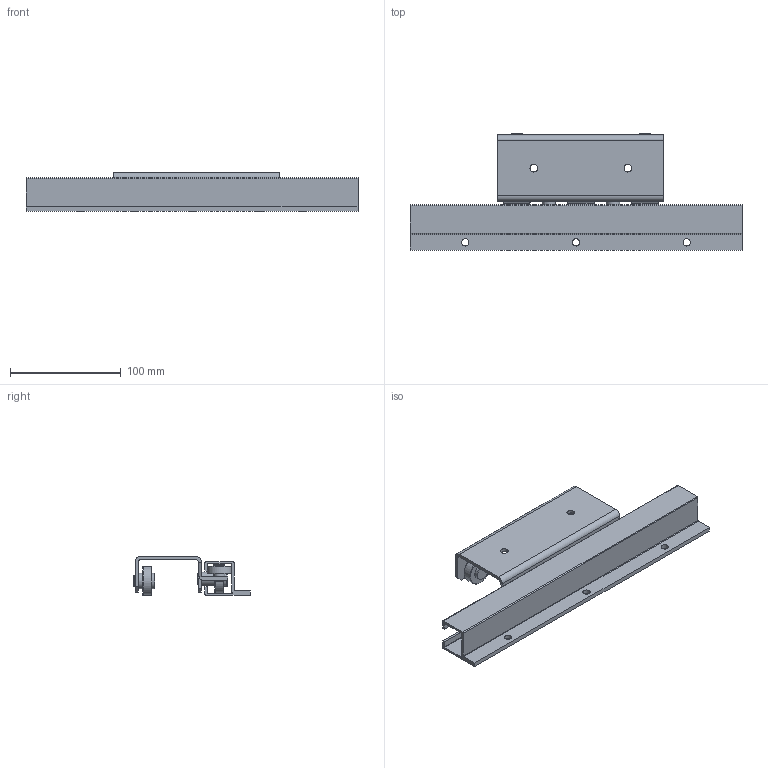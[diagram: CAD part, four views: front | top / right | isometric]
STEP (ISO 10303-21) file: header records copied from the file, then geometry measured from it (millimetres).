
FILE_DESCRIPTION((''),'2;1');
FILE_NAME('D:\製品 (図面)\カタログ用3D\ESH\ESH10.stp','2011-06-08T14:38:37',('Tsuchiya'),(''),'Autodesk Inventor 10','Autodesk Inventor 10','');
FILE_SCHEMA(('AUTOMOTIVE_DESIGN { 1 0 10303 214 1 1 1 1 }'));
Length unit declared in the file: millimetre
Products named in the file (3): ESH10; ESH10(レール); ESH10(キャリッジ)
Assembly tree (2 placements, depth 2):
  ESH10
    ESH10(レール)
    ESH10(キャリッジ)
Bounding box: 300 x 105 x 35 mm (x, y, z)
Volume: 149467.4 mm3; surface area: 110077 mm2
Topology: 2 solids, 2 shells, 185 faces, 422 edges, 270 vertices
Faces by surface type: plane 83, cylinder 43, bspline 38, cone 13, torus 8
Full cylindrical faces by diameter (mm): 6 x2, 6.6 x3, 9 x1, 10 x5, 12 x1, 14 x3, 22 x2, 26 x2
Entity records: 5496 total; most frequent: CARTESIAN_POINT 1588, DIRECTION 782, ORIENTED_EDGE 706, EDGE_CURVE 353, AXIS2_PLACEMENT_3D 297, EDGE_LOOP 284, VERTEX_POINT 261, VECTOR 188
